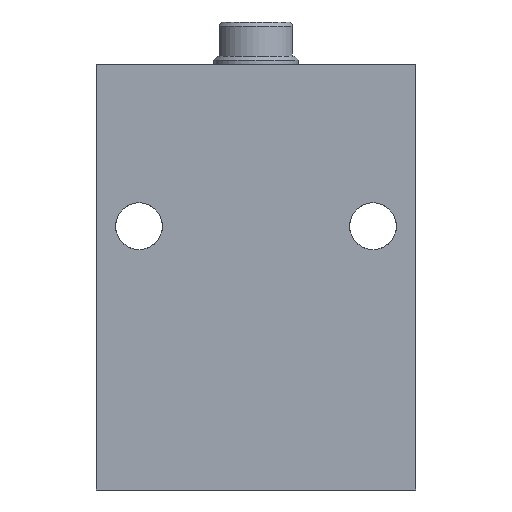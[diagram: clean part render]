
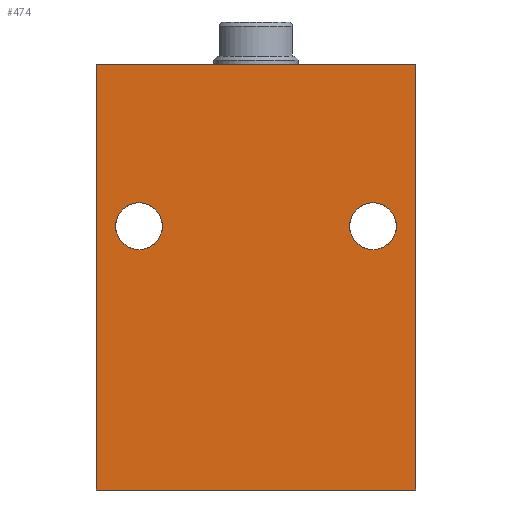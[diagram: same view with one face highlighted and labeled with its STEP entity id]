
A CAD part, front view. The second image highlights one B-rep face of the part: STEP entity #474.
In plain terms, the highlighted planar face has unit normal (0, -1, 0).
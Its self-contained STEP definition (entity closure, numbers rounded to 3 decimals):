
#32 = EDGE_CURVE ( 'NONE', #2216, #2232, #2167, .T. ) ;
#41 = AXIS2_PLACEMENT_3D ( 'NONE', #1145, #1147, #1141 ) ;
#70 = AXIS2_PLACEMENT_3D ( 'NONE', #563, #561, #560 ) ;
#409 = ORIENTED_EDGE ( 'NONE', *, *, #1937, .T. ) ;
#410 = ORIENTED_EDGE ( 'NONE', *, *, #1867, .F. ) ;
#411 = ORIENTED_EDGE ( 'NONE', *, *, #1914, .F. ) ;
#412 = ORIENTED_EDGE ( 'NONE', *, *, #1864, .T. ) ;
#413 = ORIENTED_EDGE ( 'NONE', *, *, #1796, .T. ) ;
#414 = ORIENTED_EDGE ( 'NONE', *, *, #1845, .T. ) ;
#415 = ORIENTED_EDGE ( 'NONE', *, *, #32, .T. ) ;
#416 = ORIENTED_EDGE ( 'NONE', *, *, #1836, .T. ) ;
#474 = ADVANCED_FACE ( 'NONE', ( #2144, #2136, #2140 ), #1144, .F. ) ;
#560 = DIRECTION ( 'NONE',  ( 0., 0., 1. ) ) ;
#561 = DIRECTION ( 'NONE',  ( 0., 1., 0. ) ) ;
#563 = CARTESIAN_POINT ( 'NONE',  ( -27.5, -27.5, 62. ) ) ;
#637 = CARTESIAN_POINT ( 'NONE',  ( -37.5, -27.5, 100. ) ) ;
#642 = DIRECTION ( 'NONE',  ( 1., 0., 0. ) ) ;
#644 = DIRECTION ( 'NONE',  ( 1., 0., 0. ) ) ;
#648 = CARTESIAN_POINT ( 'NONE',  ( -37.5, -27.5, 0. ) ) ;
#732 = DIRECTION ( 'NONE',  ( 0., 0., 1. ) ) ;
#733 = DIRECTION ( 'NONE',  ( 0., 1., 0. ) ) ;
#734 = CARTESIAN_POINT ( 'NONE',  ( 27.5, -27.5, 62. ) ) ;
#777 = DIRECTION ( 'NONE',  ( 0., 0., 1. ) ) ;
#778 = DIRECTION ( 'NONE',  ( 0., 1., 0. ) ) ;
#779 = CARTESIAN_POINT ( 'NONE',  ( -27.5, -27.5, 62. ) ) ;
#932 = DIRECTION ( 'NONE',  ( 0., 0., 1. ) ) ;
#934 = DIRECTION ( 'NONE',  ( 0., 1., 0. ) ) ;
#935 = CARTESIAN_POINT ( 'NONE',  ( 27.5, -27.5, 62. ) ) ;
#1141 = DIRECTION ( 'NONE',  ( 0., 0., 1. ) ) ;
#1144 = PLANE ( 'NONE',  #41 ) ;
#1145 = CARTESIAN_POINT ( 'NONE',  ( -37.5, -27.5, 100. ) ) ;
#1147 = DIRECTION ( 'NONE',  ( 0., 1., 0. ) ) ;
#1190 = LINE ( 'NONE', #1754, #1255 ) ;
#1214 = LINE ( 'NONE', #1681, #1219 ) ;
#1219 = VECTOR ( 'NONE', #1680, 1000. ) ;
#1255 = VECTOR ( 'NONE', #1752, 1000. ) ;
#1508 = CARTESIAN_POINT ( 'NONE',  ( 27.5, -27.5, 67.5 ) ) ;
#1514 = CARTESIAN_POINT ( 'NONE',  ( 27.5, -27.5, 56.5 ) ) ;
#1524 = CARTESIAN_POINT ( 'NONE',  ( -27.5, -27.5, 67.5 ) ) ;
#1546 = CARTESIAN_POINT ( 'NONE',  ( -27.5, -27.5, 56.5 ) ) ;
#1569 = CARTESIAN_POINT ( 'NONE',  ( -37.5, -27.5, 0. ) ) ;
#1586 = CARTESIAN_POINT ( 'NONE',  ( 37.5, -27.5, 100. ) ) ;
#1588 = CARTESIAN_POINT ( 'NONE',  ( 37.5, -27.5, 0. ) ) ;
#1611 = CARTESIAN_POINT ( 'NONE',  ( -37.5, -27.5, 100. ) ) ;
#1680 = DIRECTION ( 'NONE',  ( 0., 0., -1. ) ) ;
#1681 = CARTESIAN_POINT ( 'NONE',  ( -37.5, -27.5, 100. ) ) ;
#1752 = DIRECTION ( 'NONE',  ( 0., 0., -1. ) ) ;
#1754 = CARTESIAN_POINT ( 'NONE',  ( 37.5, -27.5, 100. ) ) ;
#1796 = EDGE_CURVE ( 'NONE', #2241, #2246, #2770, .T. ) ;
#1836 = EDGE_CURVE ( 'NONE', #2232, #2216, #2697, .T. ) ;
#1845 = EDGE_CURVE ( 'NONE', #2246, #2241, #2683, .T. ) ;
#1864 = EDGE_CURVE ( 'NONE', #2202, #2184, #2705, .T. ) ;
#1867 = EDGE_CURVE ( 'NONE', #2179, #2186, #2734, .T. ) ;
#1914 = EDGE_CURVE ( 'NONE', #2186, #2184, #1190, .T. ) ;
#1937 = EDGE_CURVE ( 'NONE', #2179, #2202, #1214, .T. ) ;
#2136 = FACE_BOUND ( 'NONE', #2437, .T. ) ;
#2140 = FACE_OUTER_BOUND ( 'NONE', #2459, .T. ) ;
#2144 = FACE_BOUND ( 'NONE', #2451, .T. ) ;
#2167 = CIRCLE ( 'NONE', #70, 5.5 ) ;
#2179 = VERTEX_POINT ( 'NONE', #1611 ) ;
#2184 = VERTEX_POINT ( 'NONE', #1588 ) ;
#2186 = VERTEX_POINT ( 'NONE', #1586 ) ;
#2202 = VERTEX_POINT ( 'NONE', #1569 ) ;
#2216 = VERTEX_POINT ( 'NONE', #1546 ) ;
#2232 = VERTEX_POINT ( 'NONE', #1524 ) ;
#2241 = VERTEX_POINT ( 'NONE', #1514 ) ;
#2246 = VERTEX_POINT ( 'NONE', #1508 ) ;
#2437 = EDGE_LOOP ( 'NONE', ( #414, #413 ) ) ;
#2451 = EDGE_LOOP ( 'NONE', ( #416, #415 ) ) ;
#2459 = EDGE_LOOP ( 'NONE', ( #412, #411, #410, #409 ) ) ;
#2602 = AXIS2_PLACEMENT_3D ( 'NONE', #734, #733, #732 ) ;
#2605 = AXIS2_PLACEMENT_3D ( 'NONE', #779, #778, #777 ) ;
#2633 = AXIS2_PLACEMENT_3D ( 'NONE', #935, #934, #932 ) ;
#2683 = CIRCLE ( 'NONE', #2602, 5.5 ) ;
#2697 = CIRCLE ( 'NONE', #2605, 5.5 ) ;
#2705 = LINE ( 'NONE', #648, #2710 ) ;
#2710 = VECTOR ( 'NONE', #642, 1000. ) ;
#2712 = VECTOR ( 'NONE', #644, 1000. ) ;
#2734 = LINE ( 'NONE', #637, #2712 ) ;
#2770 = CIRCLE ( 'NONE', #2633, 5.5 ) ;
